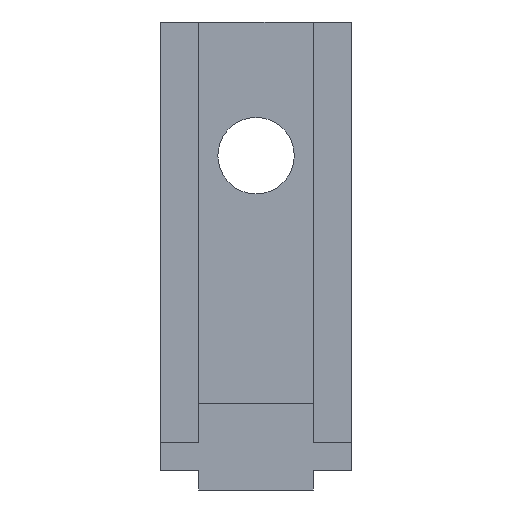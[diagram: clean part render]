
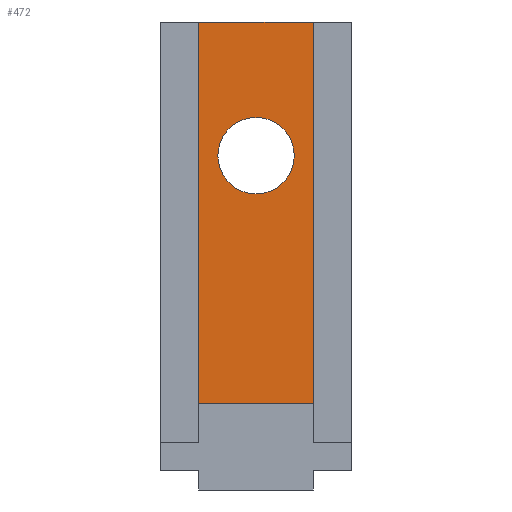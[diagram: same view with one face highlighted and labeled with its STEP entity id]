
A CAD part, front view. The second image highlights one B-rep face of the part: STEP entity #472.
In plain terms, the highlighted planar face has unit normal (0, -1, 0).
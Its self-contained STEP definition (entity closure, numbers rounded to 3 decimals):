
#2 = DIRECTION ( 'NONE',  ( -1., 0., 0. ) ) ;
#5 = CARTESIAN_POINT ( 'NONE',  ( -23.875, -18.905, 16.5 ) ) ;
#11 = PLANE ( 'NONE',  #233 ) ;
#28 = EDGE_CURVE ( 'NONE', #879, #201, #376, .T. ) ;
#32 = ORIENTED_EDGE ( 'NONE', *, *, #978, .T. ) ;
#40 = DIRECTION ( 'NONE',  ( 0., 1., 0. ) ) ;
#45 = VERTEX_POINT ( 'NONE', #254 ) ;
#56 = VERTEX_POINT ( 'NONE', #118 ) ;
#64 = DIRECTION ( 'NONE',  ( 0., 0., 1. ) ) ;
#73 = CARTESIAN_POINT ( 'NONE',  ( -26.875, -18.905, 23.5 ) ) ;
#76 = CARTESIAN_POINT ( 'NONE',  ( -23.875, -18.905, 18.5 ) ) ;
#82 = DIRECTION ( 'NONE',  ( 1., 0., 0. ) ) ;
#86 = CARTESIAN_POINT ( 'NONE',  ( -26.875, -18.905, 3.506 ) ) ;
#110 = VERTEX_POINT ( 'NONE', #796 ) ;
#112 = ORIENTED_EDGE ( 'NONE', *, *, #596, .T. ) ;
#118 = CARTESIAN_POINT ( 'NONE',  ( -20.885, -18.905, 23.5 ) ) ;
#139 = AXIS2_PLACEMENT_3D ( 'NONE', #5, #450, #64 ) ;
#201 = VERTEX_POINT ( 'NONE', #607 ) ;
#206 = DIRECTION ( 'NONE',  ( 0., 1., 0. ) ) ;
#220 = AXIS2_PLACEMENT_3D ( 'NONE', #422, #40, #499 ) ;
#233 = AXIS2_PLACEMENT_3D ( 'NONE', #73, #206, #731 ) ;
#254 = CARTESIAN_POINT ( 'NONE',  ( -20.885, -18.905, 3.506 ) ) ;
#285 = ORIENTED_EDGE ( 'NONE', *, *, #915, .F. ) ;
#288 = EDGE_LOOP ( 'NONE', ( #32, #112 ) ) ;
#333 = VECTOR ( 'NONE', #828, 1000. ) ;
#376 = LINE ( 'NONE', #854, #333 ) ;
#422 = CARTESIAN_POINT ( 'NONE',  ( -23.875, -18.905, 16.5 ) ) ;
#450 = DIRECTION ( 'NONE',  ( 0., 1., 0. ) ) ;
#464 = EDGE_LOOP ( 'NONE', ( #562, #694, #285, #806 ) ) ;
#472 = ADVANCED_FACE ( 'NONE', ( #937, #952 ), #11, .F. ) ;
#499 = DIRECTION ( 'NONE',  ( 0., 0., 1. ) ) ;
#536 = EDGE_CURVE ( 'NONE', #56, #45, #901, .T. ) ;
#562 = ORIENTED_EDGE ( 'NONE', *, *, #959, .F. ) ;
#579 = CIRCLE ( 'NONE', #139, 2. ) ;
#596 = EDGE_CURVE ( 'NONE', #110, #869, #807, .T. ) ;
#598 = LINE ( 'NONE', #86, #657 ) ;
#607 = CARTESIAN_POINT ( 'NONE',  ( -26.875, -18.905, 3.506 ) ) ;
#622 = VECTOR ( 'NONE', #82, 1000. ) ;
#632 = LINE ( 'NONE', #944, #622 ) ;
#657 = VECTOR ( 'NONE', #2, 1000. ) ;
#694 = ORIENTED_EDGE ( 'NONE', *, *, #536, .F. ) ;
#731 = DIRECTION ( 'NONE',  ( 0., 0., 1. ) ) ;
#796 = CARTESIAN_POINT ( 'NONE',  ( -23.875, -18.905, 14.5 ) ) ;
#806 = ORIENTED_EDGE ( 'NONE', *, *, #28, .T. ) ;
#807 = CIRCLE ( 'NONE', #220, 2. ) ;
#828 = DIRECTION ( 'NONE',  ( 0., 0., -1. ) ) ;
#838 = CARTESIAN_POINT ( 'NONE',  ( -26.875, -18.905, 23.5 ) ) ;
#846 = CARTESIAN_POINT ( 'NONE',  ( -20.885, -18.905, 23.5 ) ) ;
#854 = CARTESIAN_POINT ( 'NONE',  ( -26.875, -18.905, 23.5 ) ) ;
#869 = VERTEX_POINT ( 'NONE', #76 ) ;
#879 = VERTEX_POINT ( 'NONE', #838 ) ;
#893 = VECTOR ( 'NONE', #916, 1000. ) ;
#901 = LINE ( 'NONE', #846, #893 ) ;
#915 = EDGE_CURVE ( 'NONE', #879, #56, #632, .T. ) ;
#916 = DIRECTION ( 'NONE',  ( 0., 0., -1. ) ) ;
#937 = FACE_BOUND ( 'NONE', #288, .T. ) ;
#944 = CARTESIAN_POINT ( 'NONE',  ( -26.875, -18.905, 23.5 ) ) ;
#952 = FACE_OUTER_BOUND ( 'NONE', #464, .T. ) ;
#959 = EDGE_CURVE ( 'NONE', #45, #201, #598, .T. ) ;
#978 = EDGE_CURVE ( 'NONE', #869, #110, #579, .T. ) ;
